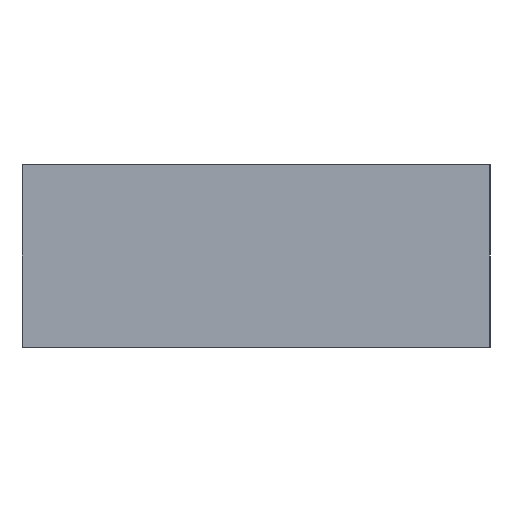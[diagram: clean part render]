
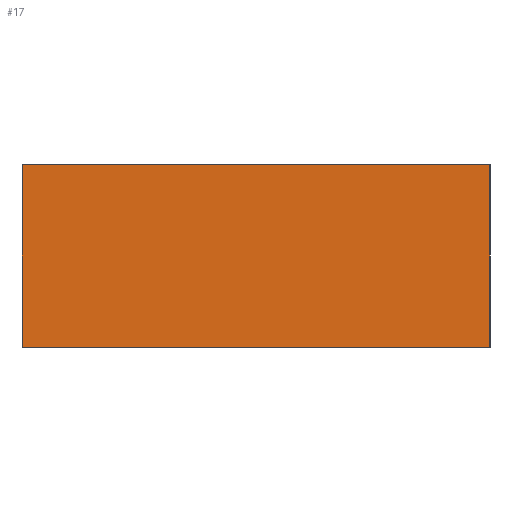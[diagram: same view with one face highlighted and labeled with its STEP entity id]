
A CAD part, left-side view. The second image highlights one B-rep face of the part: STEP entity #17.
In plain terms, the highlighted planar face has unit normal (-1, 0, 0).
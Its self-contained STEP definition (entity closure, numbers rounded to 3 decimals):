
#17 = ADVANCED_FACE('',(#18),#32,.F.);
#18 = FACE_BOUND('',#19,.F.);
#19 = EDGE_LOOP('',(#20,#55,#83,#111));
#20 = ORIENTED_EDGE('',*,*,#21,.F.);
#21 = EDGE_CURVE('',#22,#24,#26,.T.);
#22 = VERTEX_POINT('',#23);
#23 = CARTESIAN_POINT('',(-22.5,-15.35,-6.));
#24 = VERTEX_POINT('',#25);
#25 = CARTESIAN_POINT('',(-22.5,-15.35,6.));
#26 = SURFACE_CURVE('',#27,(#31,#43),.PCURVE_S1.);
#27 = LINE('',#28,#29);
#28 = CARTESIAN_POINT('',(-22.5,-15.35,-6.));
#29 = VECTOR('',#30,1.);
#30 = DIRECTION('',(0.,0.,1.));
#31 = PCURVE('',#32,#37);
#32 = PLANE('',#33);
#33 = AXIS2_PLACEMENT_3D('',#34,#35,#36);
#34 = CARTESIAN_POINT('',(-22.5,-15.35,-6.));
#35 = DIRECTION('',(1.,0.,0.));
#36 = DIRECTION('',(0.,0.,1.));
#37 = DEFINITIONAL_REPRESENTATION('',(#38),#42);
#38 = LINE('',#39,#40);
#39 = CARTESIAN_POINT('',(0.,0.));
#40 = VECTOR('',#41,1.);
#41 = DIRECTION('',(1.,0.));
#42 = ( GEOMETRIC_REPRESENTATION_CONTEXT(2) 
PARAMETRIC_REPRESENTATION_CONTEXT() REPRESENTATION_CONTEXT('2D SPACE',''
  ) );
#43 = PCURVE('',#44,#49);
#44 = PLANE('',#45);
#45 = AXIS2_PLACEMENT_3D('',#46,#47,#48);
#46 = CARTESIAN_POINT('',(-22.5,-15.35,-6.));
#47 = DIRECTION('',(0.,1.,0.));
#48 = DIRECTION('',(0.,0.,1.));
#49 = DEFINITIONAL_REPRESENTATION('',(#50),#54);
#50 = LINE('',#51,#52);
#51 = CARTESIAN_POINT('',(0.,0.));
#52 = VECTOR('',#53,1.);
#53 = DIRECTION('',(1.,0.));
#54 = ( GEOMETRIC_REPRESENTATION_CONTEXT(2) 
PARAMETRIC_REPRESENTATION_CONTEXT() REPRESENTATION_CONTEXT('2D SPACE',''
  ) );
#55 = ORIENTED_EDGE('',*,*,#56,.T.);
#56 = EDGE_CURVE('',#22,#57,#59,.T.);
#57 = VERTEX_POINT('',#58);
#58 = CARTESIAN_POINT('',(-22.5,15.35,-6.));
#59 = SURFACE_CURVE('',#60,(#64,#71),.PCURVE_S1.);
#60 = LINE('',#61,#62);
#61 = CARTESIAN_POINT('',(-22.5,-15.35,-6.));
#62 = VECTOR('',#63,1.);
#63 = DIRECTION('',(0.,1.,0.));
#64 = PCURVE('',#32,#65);
#65 = DEFINITIONAL_REPRESENTATION('',(#66),#70);
#66 = LINE('',#67,#68);
#67 = CARTESIAN_POINT('',(0.,0.));
#68 = VECTOR('',#69,1.);
#69 = DIRECTION('',(0.,-1.));
#70 = ( GEOMETRIC_REPRESENTATION_CONTEXT(2) 
PARAMETRIC_REPRESENTATION_CONTEXT() REPRESENTATION_CONTEXT('2D SPACE',''
  ) );
#71 = PCURVE('',#72,#77);
#72 = PLANE('',#73);
#73 = AXIS2_PLACEMENT_3D('',#74,#75,#76);
#74 = CARTESIAN_POINT('',(-22.5,-15.35,-6.));
#75 = DIRECTION('',(0.,0.,1.));
#76 = DIRECTION('',(1.,0.,0.));
#77 = DEFINITIONAL_REPRESENTATION('',(#78),#82);
#78 = LINE('',#79,#80);
#79 = CARTESIAN_POINT('',(0.,0.));
#80 = VECTOR('',#81,1.);
#81 = DIRECTION('',(0.,1.));
#82 = ( GEOMETRIC_REPRESENTATION_CONTEXT(2) 
PARAMETRIC_REPRESENTATION_CONTEXT() REPRESENTATION_CONTEXT('2D SPACE',''
  ) );
#83 = ORIENTED_EDGE('',*,*,#84,.T.);
#84 = EDGE_CURVE('',#57,#85,#87,.T.);
#85 = VERTEX_POINT('',#86);
#86 = CARTESIAN_POINT('',(-22.5,15.35,6.));
#87 = SURFACE_CURVE('',#88,(#92,#99),.PCURVE_S1.);
#88 = LINE('',#89,#90);
#89 = CARTESIAN_POINT('',(-22.5,15.35,-6.));
#90 = VECTOR('',#91,1.);
#91 = DIRECTION('',(0.,0.,1.));
#92 = PCURVE('',#32,#93);
#93 = DEFINITIONAL_REPRESENTATION('',(#94),#98);
#94 = LINE('',#95,#96);
#95 = CARTESIAN_POINT('',(0.,-30.7));
#96 = VECTOR('',#97,1.);
#97 = DIRECTION('',(1.,0.));
#98 = ( GEOMETRIC_REPRESENTATION_CONTEXT(2) 
PARAMETRIC_REPRESENTATION_CONTEXT() REPRESENTATION_CONTEXT('2D SPACE',''
  ) );
#99 = PCURVE('',#100,#105);
#100 = PLANE('',#101);
#101 = AXIS2_PLACEMENT_3D('',#102,#103,#104);
#102 = CARTESIAN_POINT('',(-22.5,15.35,-6.));
#103 = DIRECTION('',(0.,1.,0.));
#104 = DIRECTION('',(0.,0.,1.));
#105 = DEFINITIONAL_REPRESENTATION('',(#106),#110);
#106 = LINE('',#107,#108);
#107 = CARTESIAN_POINT('',(0.,0.));
#108 = VECTOR('',#109,1.);
#109 = DIRECTION('',(1.,0.));
#110 = ( GEOMETRIC_REPRESENTATION_CONTEXT(2) 
PARAMETRIC_REPRESENTATION_CONTEXT() REPRESENTATION_CONTEXT('2D SPACE',''
  ) );
#111 = ORIENTED_EDGE('',*,*,#112,.F.);
#112 = EDGE_CURVE('',#24,#85,#113,.T.);
#113 = SURFACE_CURVE('',#114,(#118,#125),.PCURVE_S1.);
#114 = LINE('',#115,#116);
#115 = CARTESIAN_POINT('',(-22.5,-15.35,6.));
#116 = VECTOR('',#117,1.);
#117 = DIRECTION('',(0.,1.,0.));
#118 = PCURVE('',#32,#119);
#119 = DEFINITIONAL_REPRESENTATION('',(#120),#124);
#120 = LINE('',#121,#122);
#121 = CARTESIAN_POINT('',(12.,0.));
#122 = VECTOR('',#123,1.);
#123 = DIRECTION('',(0.,-1.));
#124 = ( GEOMETRIC_REPRESENTATION_CONTEXT(2) 
PARAMETRIC_REPRESENTATION_CONTEXT() REPRESENTATION_CONTEXT('2D SPACE',''
  ) );
#125 = PCURVE('',#126,#131);
#126 = PLANE('',#127);
#127 = AXIS2_PLACEMENT_3D('',#128,#129,#130);
#128 = CARTESIAN_POINT('',(-22.5,-15.35,6.));
#129 = DIRECTION('',(0.,0.,1.));
#130 = DIRECTION('',(1.,0.,0.));
#131 = DEFINITIONAL_REPRESENTATION('',(#132),#136);
#132 = LINE('',#133,#134);
#133 = CARTESIAN_POINT('',(0.,0.));
#134 = VECTOR('',#135,1.);
#135 = DIRECTION('',(0.,1.));
#136 = ( GEOMETRIC_REPRESENTATION_CONTEXT(2) 
PARAMETRIC_REPRESENTATION_CONTEXT() REPRESENTATION_CONTEXT('2D SPACE',''
  ) );
